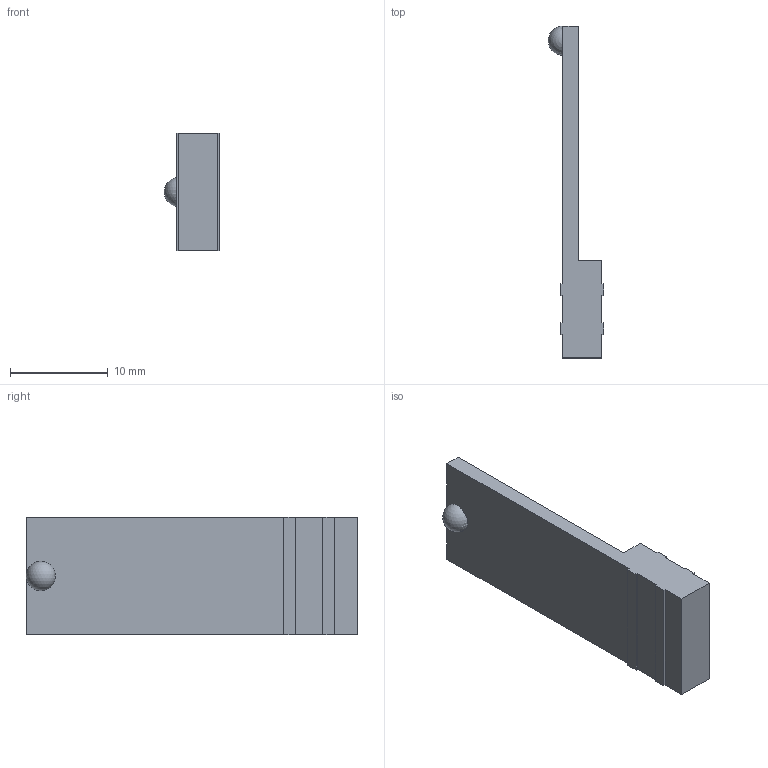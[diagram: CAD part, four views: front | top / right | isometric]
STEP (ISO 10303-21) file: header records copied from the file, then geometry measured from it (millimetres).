
FILE_DESCRIPTION(('Open CASCADE Model'),'2;1');
FILE_NAME('Open CASCADE Shape Model','2026-08-23T08:04:33',('Author'),( 'Open CASCADE'),'Open CASCADE STEP processor 7.9','Open CASCADE 7.9' ,'Unknown');
FILE_SCHEMA(('AUTOMOTIVE_DESIGN { 1 0 10303 214 1 1 1 1 }'));
Length unit declared in the file: millimetre
Products named in the file (2): =>[0:1:1:2]; COMPOUND
Assembly tree (1 placements, depth 2):
  =>[0:1:1:2]
    COMPOUND
Bounding box: 5.69 x 34 x 12 mm (x, y, z)
Volume: 959.4 mm3; surface area: 1097 mm2
Topology: 1 solids, 1 shells, 25 faces, 72 edges, 47 vertices
Faces by surface type: plane 24, sphere 1
Entity records: 1737 total; most frequent: CARTESIAN_POINT 301, DIRECTION 251, LINE 188, VECTOR 188, ORIENTED_EDGE 140, PCURVE 140, DEFINITIONAL_REPRESENTATION 140, EDGE_CURVE 70
